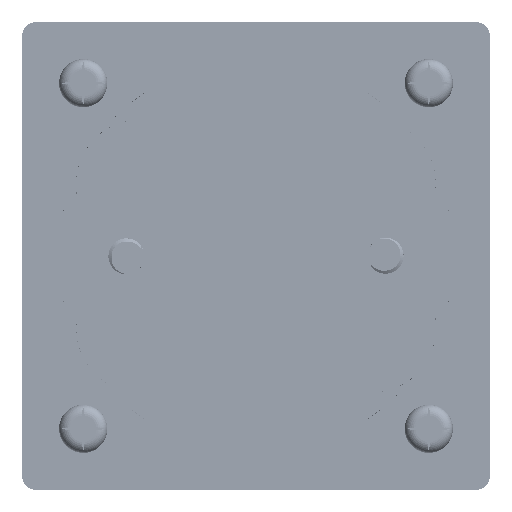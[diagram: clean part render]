
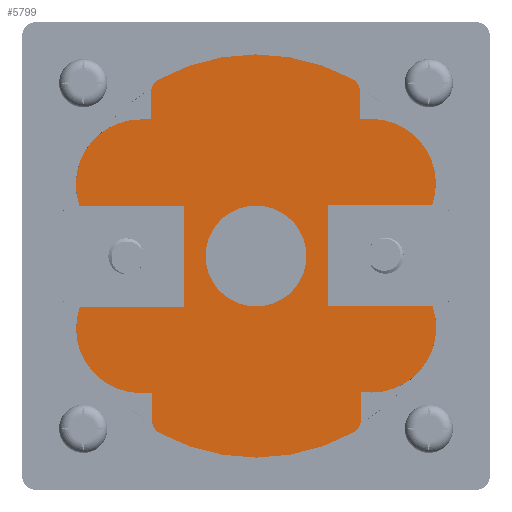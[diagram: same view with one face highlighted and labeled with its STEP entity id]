
A CAD part, front view. The second image highlights one B-rep face of the part: STEP entity #5799.
In plain terms, the highlighted planar face has unit normal (0, -1, 0).
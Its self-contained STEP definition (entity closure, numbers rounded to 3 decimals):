
#1928=FACE_BOUND('',#12348,.T.);
#1929=FACE_BOUND('',#12349,.T.);
#5799=ADVANCED_FACE('',(#1928,#1929),#7538,.F.);
#7538=PLANE('',#50113);
#12348=EDGE_LOOP('',(#25820,#25821,#25822,#25823,#25824,#25825,#25826,#25827,
#25828,#25829,#25830,#25831,#25832,#25833,#25834,#25835,#25836,#25837,#25838,
#25839,#25840,#25841,#25842,#25843,#25844));
#12349=EDGE_LOOP('',(#25845));
#14482=CIRCLE('',#50101,9.);
#14483=CIRCLE('',#50102,2.);
#14484=CIRCLE('',#50103,28.);
#14485=CIRCLE('',#50104,2.);
#14486=CIRCLE('',#50105,8.96);
#14487=CIRCLE('',#50106,9.);
#14488=CIRCLE('',#50107,9.);
#14489=CIRCLE('',#50108,2.);
#14490=CIRCLE('',#50109,28.);
#14491=CIRCLE('',#50110,2.);
#14492=CIRCLE('',#50111,9.);
#14493=CIRCLE('',#50112,7.);
#25820=ORIENTED_EDGE('',*,*,#38754,.F.);
#25821=ORIENTED_EDGE('',*,*,#38755,.T.);
#25822=ORIENTED_EDGE('',*,*,#38756,.T.);
#25823=ORIENTED_EDGE('',*,*,#38757,.T.);
#25824=ORIENTED_EDGE('',*,*,#38758,.T.);
#25825=ORIENTED_EDGE('',*,*,#38759,.T.);
#25826=ORIENTED_EDGE('',*,*,#38760,.T.);
#25827=ORIENTED_EDGE('',*,*,#38761,.T.);
#25828=ORIENTED_EDGE('',*,*,#38762,.T.);
#25829=ORIENTED_EDGE('',*,*,#38763,.T.);
#25830=ORIENTED_EDGE('',*,*,#38764,.T.);
#25831=ORIENTED_EDGE('',*,*,#38765,.F.);
#25832=ORIENTED_EDGE('',*,*,#38766,.F.);
#25833=ORIENTED_EDGE('',*,*,#38767,.F.);
#25834=ORIENTED_EDGE('',*,*,#38768,.T.);
#25835=ORIENTED_EDGE('',*,*,#38769,.T.);
#25836=ORIENTED_EDGE('',*,*,#38770,.T.);
#25837=ORIENTED_EDGE('',*,*,#38771,.T.);
#25838=ORIENTED_EDGE('',*,*,#38772,.T.);
#25839=ORIENTED_EDGE('',*,*,#38773,.T.);
#25840=ORIENTED_EDGE('',*,*,#38774,.T.);
#25841=ORIENTED_EDGE('',*,*,#38775,.T.);
#25842=ORIENTED_EDGE('',*,*,#38776,.T.);
#25843=ORIENTED_EDGE('',*,*,#38777,.F.);
#25844=ORIENTED_EDGE('',*,*,#38778,.F.);
#25845=ORIENTED_EDGE('',*,*,#38779,.F.);
#32305=VERTEX_POINT('',#184657);
#32306=VERTEX_POINT('',#184658);
#32307=VERTEX_POINT('',#184660);
#32308=VERTEX_POINT('',#184662);
#32309=VERTEX_POINT('',#184664);
#32310=VERTEX_POINT('',#184666);
#32311=VERTEX_POINT('',#184668);
#32312=VERTEX_POINT('',#184670);
#32313=VERTEX_POINT('',#184672);
#32314=VERTEX_POINT('',#184674);
#32315=VERTEX_POINT('',#184676);
#32316=VERTEX_POINT('',#184678);
#32317=VERTEX_POINT('',#184680);
#32318=VERTEX_POINT('',#184682);
#32319=VERTEX_POINT('',#184684);
#32320=VERTEX_POINT('',#184686);
#32321=VERTEX_POINT('',#184688);
#32322=VERTEX_POINT('',#184690);
#32323=VERTEX_POINT('',#184692);
#32324=VERTEX_POINT('',#184694);
#32325=VERTEX_POINT('',#184696);
#32326=VERTEX_POINT('',#184698);
#32327=VERTEX_POINT('',#184700);
#32328=VERTEX_POINT('',#184702);
#32329=VERTEX_POINT('',#184704);
#32330=VERTEX_POINT('',#184707);
#38754=EDGE_CURVE('',#32305,#32306,#42667,.T.);
#38755=EDGE_CURVE('',#32305,#32307,#14482,.T.);
#38756=EDGE_CURVE('',#32307,#32308,#42668,.T.);
#38757=EDGE_CURVE('',#32308,#32309,#42669,.T.);
#38758=EDGE_CURVE('',#32309,#32310,#14483,.T.);
#38759=EDGE_CURVE('',#32310,#32311,#14484,.T.);
#38760=EDGE_CURVE('',#32311,#32312,#14485,.T.);
#38761=EDGE_CURVE('',#32312,#32313,#42670,.T.);
#38762=EDGE_CURVE('',#32313,#32314,#14486,.T.);
#38763=EDGE_CURVE('',#32314,#32315,#42671,.T.);
#38764=EDGE_CURVE('',#32315,#32316,#14487,.T.);
#38765=EDGE_CURVE('',#32317,#32316,#42672,.T.);
#38766=EDGE_CURVE('',#32318,#32317,#42673,.T.);
#38767=EDGE_CURVE('',#32319,#32318,#42674,.T.);
#38768=EDGE_CURVE('',#32319,#32320,#14488,.T.);
#38769=EDGE_CURVE('',#32320,#32321,#42675,.T.);
#38770=EDGE_CURVE('',#32321,#32322,#42676,.T.);
#38771=EDGE_CURVE('',#32322,#32323,#14489,.T.);
#38772=EDGE_CURVE('',#32323,#32324,#14490,.T.);
#38773=EDGE_CURVE('',#32324,#32325,#14491,.T.);
#38774=EDGE_CURVE('',#32325,#32326,#42677,.T.);
#38775=EDGE_CURVE('',#32326,#32327,#42678,.T.);
#38776=EDGE_CURVE('',#32327,#32328,#14492,.T.);
#38777=EDGE_CURVE('',#32329,#32328,#42679,.T.);
#38778=EDGE_CURVE('',#32306,#32329,#42680,.T.);
#38779=EDGE_CURVE('',#32330,#32330,#14493,.T.);
#42667=LINE('',#184656,#46004);
#42668=LINE('',#184661,#46005);
#42669=LINE('',#184663,#46006);
#42670=LINE('',#184671,#46007);
#42671=LINE('',#184675,#46008);
#42672=LINE('',#184679,#46009);
#42673=LINE('',#184681,#46010);
#42674=LINE('',#184683,#46011);
#42675=LINE('',#184687,#46012);
#42676=LINE('',#184689,#46013);
#42677=LINE('',#184697,#46014);
#42678=LINE('',#184699,#46015);
#42679=LINE('',#184703,#46016);
#42680=LINE('',#184705,#46017);
#46004=VECTOR('',#60725,1.);
#46005=VECTOR('',#60728,1.);
#46006=VECTOR('',#60729,1.);
#46007=VECTOR('',#60736,1.);
#46008=VECTOR('',#60739,1.);
#46009=VECTOR('',#60742,1.);
#46010=VECTOR('',#60743,1.);
#46011=VECTOR('',#60744,1.);
#46012=VECTOR('',#60747,1.);
#46013=VECTOR('',#60748,1.);
#46014=VECTOR('',#60755,1.);
#46015=VECTOR('',#60756,1.);
#46016=VECTOR('',#60759,1.);
#46017=VECTOR('',#60760,1.);
#50101=AXIS2_PLACEMENT_3D('',#184659,#60726,#60727);
#50102=AXIS2_PLACEMENT_3D('',#184665,#60730,#60731);
#50103=AXIS2_PLACEMENT_3D('',#184667,#60732,#60733);
#50104=AXIS2_PLACEMENT_3D('',#184669,#60734,#60735);
#50105=AXIS2_PLACEMENT_3D('',#184673,#60737,#60738);
#50106=AXIS2_PLACEMENT_3D('',#184677,#60740,#60741);
#50107=AXIS2_PLACEMENT_3D('',#184685,#60745,#60746);
#50108=AXIS2_PLACEMENT_3D('',#184691,#60749,#60750);
#50109=AXIS2_PLACEMENT_3D('',#184693,#60751,#60752);
#50110=AXIS2_PLACEMENT_3D('',#184695,#60753,#60754);
#50111=AXIS2_PLACEMENT_3D('',#184701,#60757,#60758);
#50112=AXIS2_PLACEMENT_3D('',#184706,#60761,#60762);
#50113=AXIS2_PLACEMENT_3D('',#184708,#60763,#60764);
#60725=DIRECTION('',(1.,0.,0.003));
#60726=DIRECTION('',(0.,-1.,0.));
#60727=DIRECTION('',(-0.89,0.,0.456));
#60728=DIRECTION('',(1.,0.,0.003));
#60729=DIRECTION('',(0.003,0.,-1.));
#60730=DIRECTION('',(0.,-1.,0.));
#60731=DIRECTION('',(1.,0.,0.003));
#60732=DIRECTION('',(0.,-1.,0.));
#60733=DIRECTION('',(1.,0.,0.003));
#60734=DIRECTION('',(0.,-1.,0.));
#60735=DIRECTION('',(1.,0.,0.003));
#60736=DIRECTION('',(-0.003,0.,1.));
#60737=DIRECTION('',(0.,-1.,0.));
#60738=DIRECTION('',(0.,0.,-1.));
#60739=DIRECTION('',(1.,0.,0.003));
#60740=DIRECTION('',(0.,-1.,0.));
#60741=DIRECTION('',(0.,0.,-1.));
#60742=DIRECTION('',(1.,0.,0.003));
#60743=DIRECTION('',(0.003,0.,-1.));
#60744=DIRECTION('',(-1.,0.,-0.003));
#60745=DIRECTION('',(0.,-1.,0.));
#60746=DIRECTION('',(1.,0.,0.003));
#60747=DIRECTION('',(-1.,0.,-0.003));
#60748=DIRECTION('',(-0.003,0.,1.));
#60749=DIRECTION('',(0.,-1.,0.));
#60750=DIRECTION('',(1.,0.,0.003));
#60751=DIRECTION('',(0.,-1.,0.));
#60752=DIRECTION('',(1.,0.,0.003));
#60753=DIRECTION('',(0.,-1.,0.));
#60754=DIRECTION('',(1.,0.,0.003));
#60755=DIRECTION('',(0.003,0.,-1.));
#60756=DIRECTION('',(-1.,0.,-0.003));
#60757=DIRECTION('',(0.,-1.,0.));
#60758=DIRECTION('',(-1.,0.,-0.003));
#60759=DIRECTION('',(-1.,0.,-0.003));
#60760=DIRECTION('',(-0.003,0.,1.));
#60761=DIRECTION('',(0.,-1.,0.));
#60762=DIRECTION('',(-1.,0.,-0.003));
#60763=DIRECTION('',(0.,1.,0.));
#60764=DIRECTION('',(0.,0.,1.));
#184656=CARTESIAN_POINT('',(-34.164,-189.1,-7.088));
#184657=CARTESIAN_POINT('',(-24.468,-189.1,-7.063));
#184658=CARTESIAN_POINT('',(-9.982,-189.1,-7.026));
#184659=CARTESIAN_POINT('',(-15.974,-189.1,-10.041));
#184660=CARTESIAN_POINT('',(-15.951,-189.1,-19.041));
#184661=CARTESIAN_POINT('',(23.753,-189.1,-18.934));
#184662=CARTESIAN_POINT('',(-14.451,-189.1,-19.037));
#184663=CARTESIAN_POINT('',(-14.451,-189.1,-19.037));
#184664=CARTESIAN_POINT('',(-14.441,-189.1,-22.835));
#184665=CARTESIAN_POINT('',(-12.441,-189.1,-22.83));
#184666=CARTESIAN_POINT('',(-13.398,-189.1,-24.586));
#184667=CARTESIAN_POINT('',(0.,-189.1,0.));
#184668=CARTESIAN_POINT('',(13.525,-189.1,-24.517));
#184669=CARTESIAN_POINT('',(12.558,-189.1,-22.766));
#184670=CARTESIAN_POINT('',(14.558,-189.1,-22.761));
#184671=CARTESIAN_POINT('',(14.558,-189.1,-22.761));
#184672=CARTESIAN_POINT('',(14.548,-189.1,-18.837));
#184673=CARTESIAN_POINT('',(16.02,-189.1,-9.999));
#184674=CARTESIAN_POINT('',(15.978,-189.1,-18.959));
#184675=CARTESIAN_POINT('',(23.752,-189.1,-18.938));
#184676=CARTESIAN_POINT('',(16.119,-189.1,-18.958));
#184677=CARTESIAN_POINT('',(16.026,-189.1,-9.959));
#184678=CARTESIAN_POINT('',(24.503,-189.1,-6.937));
#184679=CARTESIAN_POINT('',(10.018,-189.1,-6.974));
#184680=CARTESIAN_POINT('',(10.018,-189.1,-6.974));
#184681=CARTESIAN_POINT('',(9.982,-189.1,7.026));
#184682=CARTESIAN_POINT('',(9.982,-189.1,7.026));
#184683=CARTESIAN_POINT('',(34.164,-189.1,7.088));
#184684=CARTESIAN_POINT('',(24.467,-189.1,7.063));
#184685=CARTESIAN_POINT('',(15.974,-189.1,10.041));
#184686=CARTESIAN_POINT('',(15.951,-189.1,19.041));
#184687=CARTESIAN_POINT('',(15.951,-189.1,19.041));
#184688=CARTESIAN_POINT('',(14.451,-189.1,19.037));
#184689=CARTESIAN_POINT('',(14.451,-189.1,19.037));
#184690=CARTESIAN_POINT('',(14.441,-189.1,22.835));
#184691=CARTESIAN_POINT('',(12.441,-189.1,22.83));
#184692=CARTESIAN_POINT('',(13.398,-189.1,24.586));
#184693=CARTESIAN_POINT('',(0.,-189.1,0.));
#184694=CARTESIAN_POINT('',(-13.525,-189.1,24.517));
#184695=CARTESIAN_POINT('',(-12.558,-189.1,22.766));
#184696=CARTESIAN_POINT('',(-14.558,-189.1,22.761));
#184697=CARTESIAN_POINT('',(-14.558,-189.1,22.761));
#184698=CARTESIAN_POINT('',(-14.549,-189.1,18.963));
#184699=CARTESIAN_POINT('',(-14.549,-189.1,18.963));
#184700=CARTESIAN_POINT('',(-16.049,-189.1,18.959));
#184701=CARTESIAN_POINT('',(-16.026,-189.1,9.959));
#184702=CARTESIAN_POINT('',(-24.503,-189.1,6.937));
#184703=CARTESIAN_POINT('',(-10.018,-189.1,6.974));
#184704=CARTESIAN_POINT('',(-10.018,-189.1,6.974));
#184705=CARTESIAN_POINT('',(-9.982,-189.1,-7.026));
#184706=CARTESIAN_POINT('',(0.,-189.1,0.));
#184707=CARTESIAN_POINT('',(-7.,-189.1,-0.018));
#184708=CARTESIAN_POINT('',(23.741,-189.1,-14.593));
